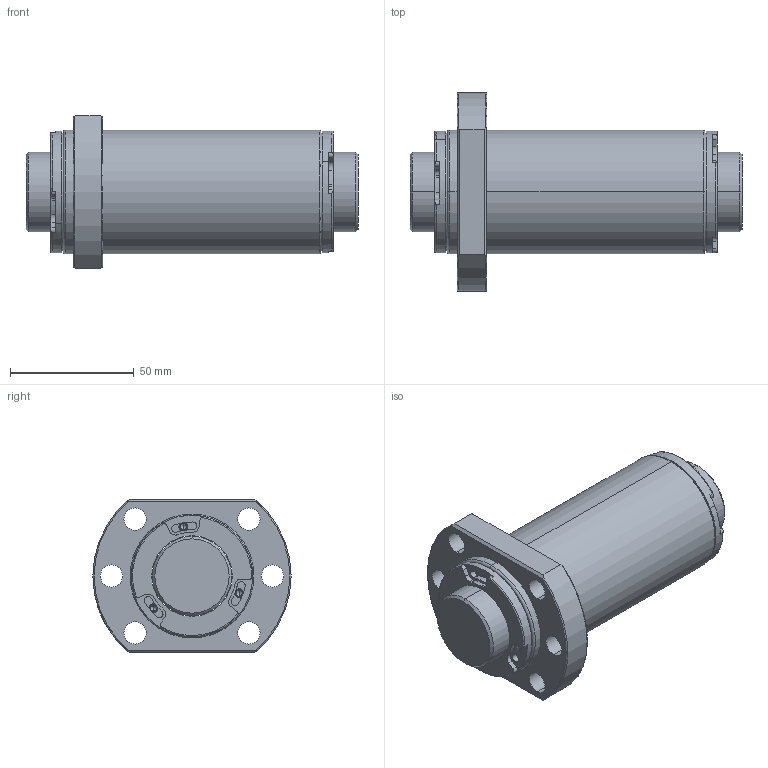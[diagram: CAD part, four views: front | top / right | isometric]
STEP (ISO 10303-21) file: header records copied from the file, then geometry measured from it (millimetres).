
FILE_DESCRIPTION (( 'STEP AP203' ), '1' );
FILE_NAME ('SFHR03232B1D-C.STEP', '2020-06-17T08:11:35', ( '' ), ( '' ), 'SwSTEP 2.0', 'SolidWorks 2013', '' );
FILE_SCHEMA (( 'CONFIG_CONTROL_DESIGN' ));
Length unit declared in the file: millimetre
Products named in the file (1): SFHR03232B1D-C
Bounding box: 134 x 80 x 62 mm (x, y, z)
Volume: 254111.5 mm3; surface area: 55331.1 mm2
Topology: 2 solids, 2 shells, 238 faces, 602 edges, 376 vertices
Faces by surface type: cylinder 128, plane 66, cone 28, torus 16
Entity records: 7551 total; most frequent: CARTESIAN_POINT 1533, DIRECTION 1386, ORIENTED_EDGE 1180, EDGE_CURVE 590, AXIS2_PLACEMENT_3D 589, VERTEX_POINT 376, CIRCLE 350, EDGE_LOOP 274
